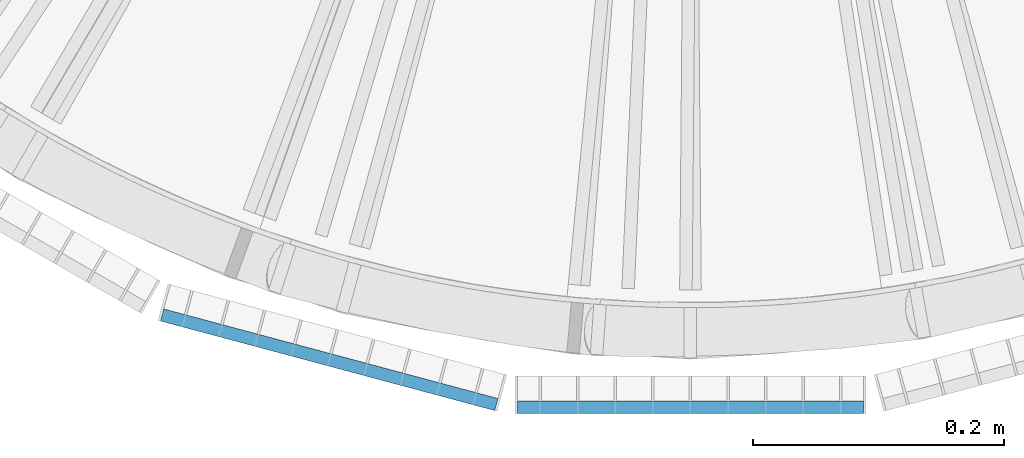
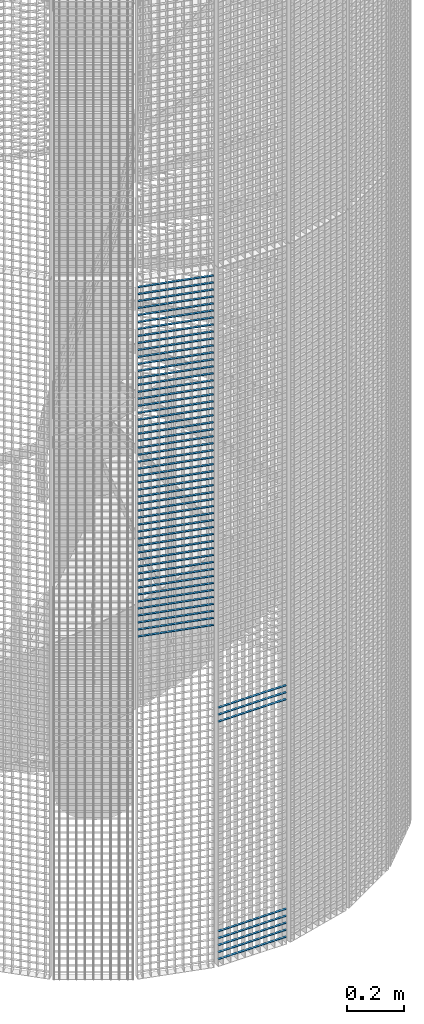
# One storey, part 171 of 1183: 59 beams, 2 elements without a shape of their own.
"""IFC2X3 building model written with IfcOpenShell, lengths in millimetres."""

import ifcopenshell
import ifcopenshell.guid

model = None  # the IFC model being written
_history = None  # IfcOwnerHistory: only IFC2X3 demands one
_inside = {}  # id of a spatial element -> (the spatial element, [elements in it])
_under = {}  # id of a project, library or spatial element -> (it, [spatial elements below it])
_declared = {}  # id of a project -> (the project, [libraries it declares])
_typed = {}  # id of a type object -> (the type object, [elements of that type])
_made_of = {}  # id of a material, layer set ... -> (it, [elements and type objects made of it])


def new_model(schema):
    """Start an empty IFC model of exactly this schema.

    Asked for "IFC4X3", IfcOpenShell would pick the latest addendum, in which some entities
    have other attributes; the version numbers below select the first issue.
    IFC2X3 requires an IfcOwnerHistory on every rooted entity: one is made here for all.
    """
    global model, _history
    if schema == "IFC4X3":
        model = ifcopenshell.file(schema_version=(4, 3, 0, 0))
    else:
        model = ifcopenshell.file(schema=schema)
    _inside.clear()
    _under.clear()
    _declared.clear()
    _typed.clear()
    _made_of.clear()
    _history = None
    if model.schema == "IFC2X3":
        org = make("IfcOrganization", Name="unknown")
        user = make(
            "IfcPersonAndOrganization",
            ThePerson=make("IfcPerson", FamilyName="unknown"),
            TheOrganization=org,
        )
        app = make(
            "IfcApplication",
            ApplicationDeveloper=org,
            Version="unknown",
            ApplicationFullName="unknown",
            ApplicationIdentifier="unknown",
        )
        _history = make(
            "IfcOwnerHistory",
            OwningUser=user,
            OwningApplication=app,
            ChangeAction="ADDED",
            CreationDate=0,
        )
    return model


def make(cls, **values):
    """One entity of the class cls with the attributes given. An attribute that is None is left unset."""
    return model.create_entity(
        cls, **{name: value for name, value in values.items() if value is not None}
    )


def rooted(cls, **values):
    """An entity with a GlobalId (a new one), such as an element, a storey or a relation."""
    return make(cls, GlobalId=ifcopenshell.guid.new(), OwnerHistory=_history, **values)


def si_unit(unit_type, name, prefix=None):
    """IfcSIUnit, for example si_unit("LENGTHUNIT", "METRE", prefix="MILLI")."""
    return make("IfcSIUnit", UnitType=unit_type, Prefix=prefix, Name=name)


def assignment(units):
    """IfcUnitAssignment: the units of a project."""
    return None if units is None else make("IfcUnitAssignment", Units=units)


def point(xyz):
    """IfcCartesianPoint."""
    return None if xyz is None else make("IfcCartesianPoint", Coordinates=xyz)


def direction(xyz):
    """IfcDirection."""
    return None if xyz is None else make("IfcDirection", DirectionRatios=xyz)


def frame(location, z_axis=None, x_axis=None):
    """IfcAxis2Placement3D, a coordinate frame: its origin and axes. An axis left out is left unset."""
    return make(
        "IfcAxis2Placement3D",
        Location=point(location),
        Axis=direction(z_axis),
        RefDirection=direction(x_axis),
    )


def frame_2d(location, x_axis=None):
    """IfcAxis2Placement2D, a coordinate frame in the plane: its origin and x axis."""
    return make(
        "IfcAxis2Placement2D", Location=point(location), RefDirection=direction(x_axis)
    )


def origin_with_axes():
    """The frame at (0, 0, 0) with the z axis (0, 0, 1) and the x axis (1, 0, 0) written out."""
    return frame((0.0, 0.0, 0.0), z_axis=(0.0, 0.0, 1.0), x_axis=(1.0, 0.0, 0.0))


def origin_2d_with_axis():
    """The frame at (0, 0) in the plane with the x axis (1, 0) written out."""
    return frame_2d((0.0, 0.0), x_axis=(1.0, 0.0))


def place(relative_to, where):
    """IfcLocalPlacement: puts the frame where relative to a parent placement (None: the world)."""
    return make(
        "IfcLocalPlacement", PlacementRelTo=relative_to, RelativePlacement=where
    )


def context(
    kind, dimensions, precision=None, world=None, true_north=None, identifier=None
):
    """IfcGeometricRepresentationContext, for example the 3D "Model" context."""
    return make(
        "IfcGeometricRepresentationContext",
        ContextIdentifier=identifier,
        ContextType=kind,
        CoordinateSpaceDimension=dimensions,
        Precision=precision,
        WorldCoordinateSystem=world,
        TrueNorth=true_north,
    )


def subcontext(parent, identifier, kind, view, scale=None):
    """IfcGeometricRepresentationSubContext, for example "Body" below "Model"."""
    return make(
        "IfcGeometricRepresentationSubContext",
        ContextIdentifier=identifier,
        ContextType=kind,
        ParentContext=parent,
        TargetScale=scale,
        TargetView=view,
    )


def project(units=None, contexts=None):
    """IfcProject with its units and contexts."""
    return rooted(
        "IfcProject",
        Name="project",
        RepresentationContexts=contexts,
        UnitsInContext=assignment(units),
    )


def spatial(cls, under=None, at=None, **own):
    """A site, building, storey or space (cls), placed at a placement, below another one or the project."""
    s = rooted(cls, ObjectPlacement=at, **own)
    if under is not None:
        _under.setdefault(under.id(), (under, []))[1].append(s)
    return s


def profile(cls, at=None, kind="AREA", **sizes):
    """A parametric profile (cls). Its sizes go by their IFC names, for example OverallWidth=200.0."""
    return make(cls, ProfileType=kind, Position=at, **sizes)


def rectangle(**sizes):
    """IfcRectangleProfileDef."""
    return profile("IfcRectangleProfileDef", **sizes)


def extrude(swept, where, along, depth):
    """IfcExtrudedAreaSolid: the profile swept, set in the frame where, extruded along a direction by depth."""
    return make(
        "IfcExtrudedAreaSolid",
        SweptArea=swept,
        Position=where,
        ExtrudedDirection=direction(along),
        Depth=depth,
    )


def shape(context_of_items, identifier, shape_type, items):
    """IfcShapeRepresentation: the items that make up one representation, for example the "Body"."""
    return make(
        "IfcShapeRepresentation",
        ContextOfItems=context_of_items,
        RepresentationIdentifier=identifier,
        RepresentationType=shape_type,
        Items=items,
    )


def material(Name=None, Category=None):
    """IfcMaterial."""
    return make("IfcMaterial", Name=Name, Category=Category)


def made_of(thing, what):
    """Note that an element or type object is made of a material, layer set ...; save() writes the relation."""
    if what is not None:
        _made_of.setdefault(what.id(), (what, []))[1].append(thing)
    return thing


def type_object(cls, material=None, **own):
    """A type object (cls), such as IfcWallType, which elements share."""
    return made_of(rooted(cls, **own), material)


def element(
    cls,
    number,
    at=None,
    inside=None,
    cuts=None,
    type_object=None,
    material=None,
    context=None,
    identifier="Body",
    shape_type=None,
    held_by="IfcProductDefinitionShape",
    body=None,
    shapes=None,
    **own,
):
    """One element of the class cls, such as IfcWall. Its Tag is "e" and its number.

    at: its placement. inside: the storey or other place that contains it. cuts: it is an
    opening in that element (IfcRelVoidsElement). A single representation is given by context,
    identifier, shape_type and body (its items); several are given by shapes. held_by: the class
    of the entity that holds the representations. save() writes the other relations.
    """
    e = rooted(cls, Tag="e%d" % number, ObjectPlacement=at, **own)
    if body is not None:
        shapes = [shape(context, identifier, shape_type, body)]
    if shapes is not None:
        e.Representation = make(held_by, Representations=shapes)
    if inside is not None:
        _inside.setdefault(inside.id(), (inside, []))[1].append(e)
    if cuts is not None:
        rooted(
            "IfcRelVoidsElement", RelatingBuildingElement=cuts, RelatedOpeningElement=e
        )
    if type_object is not None:
        _typed.setdefault(type_object.id(), (type_object, []))[1].append(e)
    return made_of(e, material)


def aggregate(whole, parts):
    """IfcRelAggregates: a whole, such as a stair, and the parts it consists of."""
    return rooted("IfcRelAggregates", RelatingObject=whole, RelatedObjects=parts)


def save(model, path):
    """Write the relations noted so far, then the file.

    IfcRelAggregates (storeys below a building ...), IfcRelContainedInSpatialStructure (elements
    in a storey), IfcRelDefinesByType, IfcRelAssociatesMaterial and IfcRelDeclares: one each for
    every whole, place, type object, material and project.
    """
    for whole, parts in _under.values():
        aggregate(whole, parts)
    for where, things in _inside.values():
        rooted(
            "IfcRelContainedInSpatialStructure",
            RelatedElements=things,
            RelatingStructure=where,
        )
    for kind, things in _typed.values():
        rooted("IfcRelDefinesByType", RelatedObjects=things, RelatingType=kind)
    for what, things in _made_of.values():
        rooted("IfcRelAssociatesMaterial", RelatedObjects=things, RelatingMaterial=what)
    for by, libraries in _declared.values():
        rooted("IfcRelDeclares", RelatingContext=by, RelatedDefinitions=libraries)
    model.write(path)


model = new_model("IFC2X3")

# Units and contexts
model_context = context("Model", 3, precision=1e-05, world=origin_with_axes())
body_context = subcontext(model_context, "Body", "Model", "MODEL_VIEW")
ifc_project = project(units=[si_unit("LENGTHUNIT", "METRE", prefix="MILLI"), si_unit("AREAUNIT", "SQUARE_METRE"), si_unit("VOLUMEUNIT", "CUBIC_METRE"), si_unit("MASSUNIT", "GRAM", prefix="KILO"), si_unit("TIMEUNIT", "SECOND"), si_unit("PLANEANGLEUNIT", "RADIAN"), si_unit("SOLIDANGLEUNIT", "STERADIAN"), si_unit("THERMODYNAMICTEMPERATUREUNIT", "DEGREE_CELSIUS"), si_unit("LUMINOUSINTENSITYUNIT", "LUMEN")], contexts=[model_context])

# Site, building, storey
site_placement = place(None, origin_with_axes())
site = spatial("IfcSite", under=ifc_project, at=site_placement, Name="Undefined", CompositionType="ELEMENT")
building_placement = place(site_placement, origin_with_axes())
building = spatial("IfcBuilding", under=site, at=building_placement, Name="Undefined", CompositionType="ELEMENT")
storey_placement = place(building_placement, origin_with_axes())
storey = spatial("IfcBuildingStorey", under=building, at=storey_placement, Name="Undefined", CompositionType="ELEMENT", Elevation=0.0)

# Assembly, beams
assembly_1_placement = place(storey_placement, origin_with_axes())
assembly_1 = element("IfcElementAssembly", 1, at=assembly_1_placement, inside=storey, Name="BORDURE", AssemblyPlace="NOTDEFINED", PredefinedType="NOTDEFINED")
ifc_material = material(Name="STEEL/S235JR")
beam_type = type_object("IfcBeamType", Name="PL2*10", PredefinedType="NOTDEFINED")
beam_1_placement = place(assembly_1_placement, frame((-137.996003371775, -1113.47999999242, 1050.0), z_axis=(0.0, -1.0, 0.0), x_axis=(1.0, 0.0, 0.0)))
beam_1 = element("IfcBeam", 2, at=beam_1_placement, type_object=beam_type, material=ifc_material, Name="ENTRETOISE", context=body_context, shape_type="SweptSolid", body=[
    extrude(rectangle(XDim=2.0, YDim=10.0, at=origin_2d_with_axis()), frame((275.999999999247, 9.09494701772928e-13, 1.53210777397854e-14), z_axis=(-1.0, 0.0, 0.0), x_axis=(0.0, -1.0, 0.0)), (0.0, 0.0, 1.0), 276.0),
])
beam_2_placement = place(assembly_1_placement, frame((-137.996003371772, -1113.47999999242, 149.999999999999), z_axis=(0.0, -1.0, 0.0), x_axis=(1.0, 0.0, 0.0)))
beam_2 = element("IfcBeam", 3, at=beam_2_placement, type_object=beam_type, material=ifc_material, Name="ENTRETOISE", context=body_context, shape_type="SweptSolid", body=[
    extrude(rectangle(XDim=2.0, YDim=10.0, at=origin_2d_with_axis()), frame((275.999999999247, 9.09494701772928e-13, 1.53210777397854e-14), z_axis=(-1.0, 0.0, 0.0), x_axis=(0.0, -1.0, 0.0)), (0.0, 0.0, 1.0), 276.0),
])
beam_3_placement = place(assembly_1_placement, frame((-137.996003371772, -1113.47999999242, 119.999999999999), z_axis=(0.0, -1.0, 0.0), x_axis=(1.0, 0.0, 0.0)))
beam_3 = element("IfcBeam", 4, at=beam_3_placement, type_object=beam_type, material=ifc_material, Name="ENTRETOISE", context=body_context, shape_type="SweptSolid", body=[
    extrude(rectangle(XDim=2.0, YDim=10.0, at=origin_2d_with_axis()), frame((275.999999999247, 9.09494701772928e-13, 1.53210777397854e-14), z_axis=(-1.0, 0.0, 0.0), x_axis=(0.0, -1.0, 0.0)), (0.0, 0.0, 1.0), 276.0),
])
beam_4_placement = place(assembly_1_placement, frame((-137.996003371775, -1113.47999999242, 1080.0), z_axis=(0.0, -1.0, 0.0), x_axis=(1.0, 0.0, 0.0)))
beam_4 = element("IfcBeam", 5, at=beam_4_placement, type_object=beam_type, material=ifc_material, Name="ENTRETOISE", context=body_context, shape_type="SweptSolid", body=[
    extrude(rectangle(XDim=2.0, YDim=10.0, at=origin_2d_with_axis()), frame((275.999999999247, 9.09494701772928e-13, 1.53210777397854e-14), z_axis=(-1.0, 0.0, 0.0), x_axis=(0.0, -1.0, 0.0)), (0.0, 0.0, 1.0), 276.0),
])
beam_5_placement = place(assembly_1_placement, frame((-137.996003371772, -1113.47999999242, 89.9999999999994), z_axis=(0.0, -1.0, 0.0), x_axis=(1.0, 0.0, 0.0)))
beam_5 = element("IfcBeam", 6, at=beam_5_placement, type_object=beam_type, material=ifc_material, Name="ENTRETOISE", context=body_context, shape_type="SweptSolid", body=[
    extrude(rectangle(XDim=2.0, YDim=10.0, at=origin_2d_with_axis()), frame((275.999999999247, 9.09494701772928e-13, 1.53210777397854e-14), z_axis=(-1.0, 0.0, 0.0), x_axis=(0.0, -1.0, 0.0)), (0.0, 0.0, 1.0), 276.0),
])
beam_6_placement = place(assembly_1_placement, frame((-137.996003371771, -1113.47999999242, 59.9999999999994), z_axis=(0.0, -1.0, 0.0), x_axis=(1.0, 0.0, 0.0)))
beam_6 = element("IfcBeam", 7, at=beam_6_placement, type_object=beam_type, material=ifc_material, Name="ENTRETOISE", context=body_context, shape_type="SweptSolid", body=[
    extrude(rectangle(XDim=2.0, YDim=10.0, at=origin_2d_with_axis()), frame((275.999999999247, 9.09494701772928e-13, 1.53210777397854e-14), z_axis=(-1.0, 0.0, 0.0), x_axis=(0.0, -1.0, 0.0)), (0.0, 0.0, 1.0), 276.0),
])
beam_7_placement = place(assembly_1_placement, frame((-137.996003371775, -1113.47999999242, 1110.0), z_axis=(0.0, -1.0, 0.0), x_axis=(1.0, 0.0, 0.0)))
beam_7 = element("IfcBeam", 8, at=beam_7_placement, type_object=beam_type, material=ifc_material, Name="ENTRETOISE", context=body_context, shape_type="SweptSolid", body=[
    extrude(rectangle(XDim=2.0, YDim=10.0, at=origin_2d_with_axis()), frame((275.999999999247, 9.09494701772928e-13, 1.53210777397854e-14), z_axis=(-1.0, 0.0, 0.0), x_axis=(0.0, -1.0, 0.0)), (0.0, 0.0, 1.0), 276.0),
])
beam_8_placement = place(assembly_1_placement, frame((-137.99600337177, -1113.47999999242, 29.9999999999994), z_axis=(0.0, -1.0, 0.0), x_axis=(1.0, 0.0, 0.0)))
beam_8 = element("IfcBeam", 9, at=beam_8_placement, type_object=beam_type, material=ifc_material, Name="ENTRETOISE", context=body_context, shape_type="SweptSolid", body=[
    extrude(rectangle(XDim=2.0, YDim=10.0, at=origin_2d_with_axis()), frame((275.999999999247, 9.09494701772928e-13, 1.53210777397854e-14), z_axis=(-1.0, 0.0, 0.0), x_axis=(0.0, -1.0, 0.0)), (0.0, 0.0, 1.0), 276.0),
])
aggregate(assembly_1, [beam_1, beam_2, beam_3, beam_4, beam_5, beam_6, beam_7, beam_8])

assembly_2_placement = place(storey_placement, origin_with_axes())
assembly_2 = element("IfcElementAssembly", 10, at=assembly_2_placement, inside=storey, Name="BORDURE", AssemblyPlace="NOTDEFINED", PredefinedType="NOTDEFINED")
beam_9_placement = place(assembly_2_placement, frame((-421.483733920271, -1039.82309522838, 2970.0), z_axis=(-0.258819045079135, -0.965925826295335, 0.0), x_axis=(0.965925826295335, -0.258819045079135, 0.0)))
beam_9 = element("IfcBeam", 11, at=beam_9_placement, type_object=beam_type, material=ifc_material, Name="ENTRETOISE", context=body_context, shape_type="SweptSolid", body=[
    extrude(rectangle(XDim=2.0, YDim=10.0, at=origin_2d_with_axis()), frame((275.999999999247, 9.09494701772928e-13, 1.53210777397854e-14), z_axis=(-1.0, 0.0, 0.0), x_axis=(0.0, -1.0, 0.0)), (0.0, 0.0, 1.0), 276.0),
])
beam_10_placement = place(assembly_2_placement, frame((-421.483733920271, -1039.82309522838, 2940.0), z_axis=(-0.258819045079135, -0.965925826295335, 0.0), x_axis=(0.965925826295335, -0.258819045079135, 0.0)))
beam_10 = element("IfcBeam", 12, at=beam_10_placement, type_object=beam_type, material=ifc_material, Name="ENTRETOISE", context=body_context, shape_type="SweptSolid", body=[
    extrude(rectangle(XDim=2.0, YDim=10.0, at=origin_2d_with_axis()), frame((275.999999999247, 9.09494701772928e-13, 1.53210777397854e-14), z_axis=(-1.0, 0.0, 0.0), x_axis=(0.0, -1.0, 0.0)), (0.0, 0.0, 1.0), 276.0),
])
beam_11_placement = place(assembly_2_placement, frame((-421.483733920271, -1039.82309522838, 2910.0), z_axis=(-0.258819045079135, -0.965925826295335, 0.0), x_axis=(0.965925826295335, -0.258819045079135, 0.0)))
beam_11 = element("IfcBeam", 13, at=beam_11_placement, type_object=beam_type, material=ifc_material, Name="ENTRETOISE", context=body_context, shape_type="SweptSolid", body=[
    extrude(rectangle(XDim=2.0, YDim=10.0, at=origin_2d_with_axis()), frame((275.999999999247, 9.09494701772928e-13, 1.53210777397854e-14), z_axis=(-1.0, 0.0, 0.0), x_axis=(0.0, -1.0, 0.0)), (0.0, 0.0, 1.0), 276.0),
])
beam_12_placement = place(assembly_2_placement, frame((-421.483733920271, -1039.82309522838, 2880.0), z_axis=(-0.258819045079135, -0.965925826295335, 0.0), x_axis=(0.965925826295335, -0.258819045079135, 0.0)))
beam_12 = element("IfcBeam", 14, at=beam_12_placement, type_object=beam_type, material=ifc_material, Name="ENTRETOISE", context=body_context, shape_type="SweptSolid", body=[
    extrude(rectangle(XDim=2.0, YDim=10.0, at=origin_2d_with_axis()), frame((275.999999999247, 9.09494701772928e-13, 1.53210777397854e-14), z_axis=(-1.0, 0.0, 0.0), x_axis=(0.0, -1.0, 0.0)), (0.0, 0.0, 1.0), 276.0),
])
beam_13_placement = place(assembly_2_placement, frame((-421.483733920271, -1039.82309522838, 2850.0), z_axis=(-0.258819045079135, -0.965925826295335, 0.0), x_axis=(0.965925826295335, -0.258819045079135, 0.0)))
beam_13 = element("IfcBeam", 15, at=beam_13_placement, type_object=beam_type, material=ifc_material, Name="ENTRETOISE", context=body_context, shape_type="SweptSolid", body=[
    extrude(rectangle(XDim=2.0, YDim=10.0, at=origin_2d_with_axis()), frame((275.999999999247, 9.09494701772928e-13, 1.53210777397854e-14), z_axis=(-1.0, 0.0, 0.0), x_axis=(0.0, -1.0, 0.0)), (0.0, 0.0, 1.0), 276.0),
])
beam_14_placement = place(assembly_2_placement, frame((-421.483733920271, -1039.82309522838, 2820.0), z_axis=(-0.258819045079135, -0.965925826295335, 0.0), x_axis=(0.965925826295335, -0.258819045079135, 0.0)))
beam_14 = element("IfcBeam", 16, at=beam_14_placement, type_object=beam_type, material=ifc_material, Name="ENTRETOISE", context=body_context, shape_type="SweptSolid", body=[
    extrude(rectangle(XDim=2.0, YDim=10.0, at=origin_2d_with_axis()), frame((275.999999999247, 9.09494701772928e-13, 1.53210777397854e-14), z_axis=(-1.0, 0.0, 0.0), x_axis=(0.0, -1.0, 0.0)), (0.0, 0.0, 1.0), 276.0),
])
beam_15_placement = place(assembly_2_placement, frame((-421.483733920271, -1039.82309522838, 2790.0), z_axis=(-0.258819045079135, -0.965925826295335, 0.0), x_axis=(0.965925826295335, -0.258819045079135, 0.0)))
beam_15 = element("IfcBeam", 17, at=beam_15_placement, type_object=beam_type, material=ifc_material, Name="ENTRETOISE", context=body_context, shape_type="SweptSolid", body=[
    extrude(rectangle(XDim=2.0, YDim=10.0, at=origin_2d_with_axis()), frame((275.999999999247, 9.09494701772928e-13, 1.53210777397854e-14), z_axis=(-1.0, 0.0, 0.0), x_axis=(0.0, -1.0, 0.0)), (0.0, 0.0, 1.0), 276.0),
])
beam_16_placement = place(assembly_2_placement, frame((-421.483733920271, -1039.82309522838, 2760.0), z_axis=(-0.258819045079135, -0.965925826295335, 0.0), x_axis=(0.965925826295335, -0.258819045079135, 0.0)))
beam_16 = element("IfcBeam", 18, at=beam_16_placement, type_object=beam_type, material=ifc_material, Name="ENTRETOISE", context=body_context, shape_type="SweptSolid", body=[
    extrude(rectangle(XDim=2.0, YDim=10.0, at=origin_2d_with_axis()), frame((275.999999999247, 9.09494701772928e-13, 1.53210777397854e-14), z_axis=(-1.0, 0.0, 0.0), x_axis=(0.0, -1.0, 0.0)), (0.0, 0.0, 1.0), 276.0),
])
beam_17_placement = place(assembly_2_placement, frame((-421.483733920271, -1039.82309522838, 2730.0), z_axis=(-0.258819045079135, -0.965925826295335, 0.0), x_axis=(0.965925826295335, -0.258819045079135, 0.0)))
beam_17 = element("IfcBeam", 19, at=beam_17_placement, type_object=beam_type, material=ifc_material, Name="ENTRETOISE", context=body_context, shape_type="SweptSolid", body=[
    extrude(rectangle(XDim=2.0, YDim=10.0, at=origin_2d_with_axis()), frame((275.999999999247, 9.09494701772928e-13, 1.53210777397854e-14), z_axis=(-1.0, 0.0, 0.0), x_axis=(0.0, -1.0, 0.0)), (0.0, 0.0, 1.0), 276.0),
])
beam_18_placement = place(assembly_2_placement, frame((-421.48373392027, -1039.82309522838, 2700.0), z_axis=(-0.258819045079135, -0.965925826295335, 0.0), x_axis=(0.965925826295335, -0.258819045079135, 0.0)))
beam_18 = element("IfcBeam", 20, at=beam_18_placement, type_object=beam_type, material=ifc_material, Name="ENTRETOISE", context=body_context, shape_type="SweptSolid", body=[
    extrude(rectangle(XDim=2.0, YDim=10.0, at=origin_2d_with_axis()), frame((275.999999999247, 9.09494701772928e-13, 1.53210777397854e-14), z_axis=(-1.0, 0.0, 0.0), x_axis=(0.0, -1.0, 0.0)), (0.0, 0.0, 1.0), 276.0),
])
beam_19_placement = place(assembly_2_placement, frame((-421.48373392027, -1039.82309522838, 2670.0), z_axis=(-0.258819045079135, -0.965925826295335, 0.0), x_axis=(0.965925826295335, -0.258819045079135, 0.0)))
beam_19 = element("IfcBeam", 21, at=beam_19_placement, type_object=beam_type, material=ifc_material, Name="ENTRETOISE", context=body_context, shape_type="SweptSolid", body=[
    extrude(rectangle(XDim=2.0, YDim=10.0, at=origin_2d_with_axis()), frame((275.999999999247, 9.09494701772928e-13, 1.53210777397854e-14), z_axis=(-1.0, 0.0, 0.0), x_axis=(0.0, -1.0, 0.0)), (0.0, 0.0, 1.0), 276.0),
])
beam_20_placement = place(assembly_2_placement, frame((-421.48373392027, -1039.82309522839, 2640.0), z_axis=(-0.258819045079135, -0.965925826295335, 0.0), x_axis=(0.965925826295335, -0.258819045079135, 0.0)))
beam_20 = element("IfcBeam", 22, at=beam_20_placement, type_object=beam_type, material=ifc_material, Name="ENTRETOISE", context=body_context, shape_type="SweptSolid", body=[
    extrude(rectangle(XDim=2.0, YDim=10.0, at=origin_2d_with_axis()), frame((275.999999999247, 9.09494701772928e-13, 1.53210777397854e-14), z_axis=(-1.0, 0.0, 0.0), x_axis=(0.0, -1.0, 0.0)), (0.0, 0.0, 1.0), 276.0),
])
beam_21_placement = place(assembly_2_placement, frame((-421.48373392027, -1039.82309522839, 2610.0), z_axis=(-0.258819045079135, -0.965925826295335, 0.0), x_axis=(0.965925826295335, -0.258819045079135, 0.0)))
beam_21 = element("IfcBeam", 23, at=beam_21_placement, type_object=beam_type, material=ifc_material, Name="ENTRETOISE", context=body_context, shape_type="SweptSolid", body=[
    extrude(rectangle(XDim=2.0, YDim=10.0, at=origin_2d_with_axis()), frame((275.999999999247, 9.09494701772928e-13, 1.53210777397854e-14), z_axis=(-1.0, 0.0, 0.0), x_axis=(0.0, -1.0, 0.0)), (0.0, 0.0, 1.0), 276.0),
])
beam_22_placement = place(assembly_2_placement, frame((-421.48373392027, -1039.82309522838, 2580.0), z_axis=(-0.258819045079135, -0.965925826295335, 0.0), x_axis=(0.965925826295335, -0.258819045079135, 0.0)))
beam_22 = element("IfcBeam", 24, at=beam_22_placement, type_object=beam_type, material=ifc_material, Name="ENTRETOISE", context=body_context, shape_type="SweptSolid", body=[
    extrude(rectangle(XDim=2.0, YDim=10.0, at=origin_2d_with_axis()), frame((275.999999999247, 9.09494701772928e-13, 1.53210777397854e-14), z_axis=(-1.0, 0.0, 0.0), x_axis=(0.0, -1.0, 0.0)), (0.0, 0.0, 1.0), 276.0),
])
beam_23_placement = place(assembly_2_placement, frame((-421.48373392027, -1039.82309522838, 2550.0), z_axis=(-0.258819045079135, -0.965925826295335, 0.0), x_axis=(0.965925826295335, -0.258819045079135, 0.0)))
beam_23 = element("IfcBeam", 25, at=beam_23_placement, type_object=beam_type, material=ifc_material, Name="ENTRETOISE", context=body_context, shape_type="SweptSolid", body=[
    extrude(rectangle(XDim=2.0, YDim=10.0, at=origin_2d_with_axis()), frame((275.999999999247, 9.09494701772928e-13, 1.53210777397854e-14), z_axis=(-1.0, 0.0, 0.0), x_axis=(0.0, -1.0, 0.0)), (0.0, 0.0, 1.0), 276.0),
])
beam_24_placement = place(assembly_2_placement, frame((-421.48373392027, -1039.82309522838, 2520.0), z_axis=(-0.258819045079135, -0.965925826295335, 0.0), x_axis=(0.965925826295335, -0.258819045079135, 0.0)))
beam_24 = element("IfcBeam", 26, at=beam_24_placement, type_object=beam_type, material=ifc_material, Name="ENTRETOISE", context=body_context, shape_type="SweptSolid", body=[
    extrude(rectangle(XDim=2.0, YDim=10.0, at=origin_2d_with_axis()), frame((275.999999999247, 9.09494701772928e-13, 1.53210777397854e-14), z_axis=(-1.0, 0.0, 0.0), x_axis=(0.0, -1.0, 0.0)), (0.0, 0.0, 1.0), 276.0),
])
beam_25_placement = place(assembly_2_placement, frame((-421.48373392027, -1039.82309522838, 2490.0), z_axis=(-0.258819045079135, -0.965925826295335, 0.0), x_axis=(0.965925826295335, -0.258819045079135, 0.0)))
beam_25 = element("IfcBeam", 27, at=beam_25_placement, type_object=beam_type, material=ifc_material, Name="ENTRETOISE", context=body_context, shape_type="SweptSolid", body=[
    extrude(rectangle(XDim=2.0, YDim=10.0, at=origin_2d_with_axis()), frame((275.999999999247, 9.09494701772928e-13, 1.53210777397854e-14), z_axis=(-1.0, 0.0, 0.0), x_axis=(0.0, -1.0, 0.0)), (0.0, 0.0, 1.0), 276.0),
])
beam_26_placement = place(assembly_2_placement, frame((-421.48373392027, -1039.82309522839, 2460.0), z_axis=(-0.258819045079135, -0.965925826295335, 0.0), x_axis=(0.965925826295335, -0.258819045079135, 0.0)))
beam_26 = element("IfcBeam", 28, at=beam_26_placement, type_object=beam_type, material=ifc_material, Name="ENTRETOISE", context=body_context, shape_type="SweptSolid", body=[
    extrude(rectangle(XDim=2.0, YDim=10.0, at=origin_2d_with_axis()), frame((275.999999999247, 9.09494701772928e-13, 1.53210777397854e-14), z_axis=(-1.0, 0.0, 0.0), x_axis=(0.0, -1.0, 0.0)), (0.0, 0.0, 1.0), 276.0),
])
beam_27_placement = place(assembly_2_placement, frame((-421.48373392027, -1039.82309522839, 2430.0), z_axis=(-0.258819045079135, -0.965925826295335, 0.0), x_axis=(0.965925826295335, -0.258819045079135, 0.0)))
beam_27 = element("IfcBeam", 29, at=beam_27_placement, type_object=beam_type, material=ifc_material, Name="ENTRETOISE", context=body_context, shape_type="SweptSolid", body=[
    extrude(rectangle(XDim=2.0, YDim=10.0, at=origin_2d_with_axis()), frame((275.999999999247, 9.09494701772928e-13, 1.53210777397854e-14), z_axis=(-1.0, 0.0, 0.0), x_axis=(0.0, -1.0, 0.0)), (0.0, 0.0, 1.0), 276.0),
])
beam_28_placement = place(assembly_2_placement, frame((-421.483733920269, -1039.82309522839, 2400.0), z_axis=(-0.258819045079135, -0.965925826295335, 0.0), x_axis=(0.965925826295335, -0.258819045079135, 0.0)))
beam_28 = element("IfcBeam", 30, at=beam_28_placement, type_object=beam_type, material=ifc_material, Name="ENTRETOISE", context=body_context, shape_type="SweptSolid", body=[
    extrude(rectangle(XDim=2.0, YDim=10.0, at=origin_2d_with_axis()), frame((275.999999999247, 9.09494701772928e-13, 1.53210777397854e-14), z_axis=(-1.0, 0.0, 0.0), x_axis=(0.0, -1.0, 0.0)), (0.0, 0.0, 1.0), 276.0),
])
beam_29_placement = place(assembly_2_placement, frame((-421.483733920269, -1039.82309522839, 2370.0), z_axis=(-0.258819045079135, -0.965925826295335, 0.0), x_axis=(0.965925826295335, -0.258819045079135, 0.0)))
beam_29 = element("IfcBeam", 31, at=beam_29_placement, type_object=beam_type, material=ifc_material, Name="ENTRETOISE", context=body_context, shape_type="SweptSolid", body=[
    extrude(rectangle(XDim=2.0, YDim=10.0, at=origin_2d_with_axis()), frame((275.999999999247, 9.09494701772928e-13, 1.53210777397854e-14), z_axis=(-1.0, 0.0, 0.0), x_axis=(0.0, -1.0, 0.0)), (0.0, 0.0, 1.0), 276.0),
])
beam_30_placement = place(assembly_2_placement, frame((-421.483733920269, -1039.82309522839, 2340.0), z_axis=(-0.258819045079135, -0.965925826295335, 0.0), x_axis=(0.965925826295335, -0.258819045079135, 0.0)))
beam_30 = element("IfcBeam", 32, at=beam_30_placement, type_object=beam_type, material=ifc_material, Name="ENTRETOISE", context=body_context, shape_type="SweptSolid", body=[
    extrude(rectangle(XDim=2.0, YDim=10.0, at=origin_2d_with_axis()), frame((275.999999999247, 9.09494701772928e-13, 1.53210777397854e-14), z_axis=(-1.0, 0.0, 0.0), x_axis=(0.0, -1.0, 0.0)), (0.0, 0.0, 1.0), 276.0),
])
beam_31_placement = place(assembly_2_placement, frame((-421.483733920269, -1039.82309522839, 2310.0), z_axis=(-0.258819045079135, -0.965925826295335, 0.0), x_axis=(0.965925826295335, -0.258819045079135, 0.0)))
beam_31 = element("IfcBeam", 33, at=beam_31_placement, type_object=beam_type, material=ifc_material, Name="ENTRETOISE", context=body_context, shape_type="SweptSolid", body=[
    extrude(rectangle(XDim=2.0, YDim=10.0, at=origin_2d_with_axis()), frame((275.999999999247, 9.09494701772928e-13, 1.53210777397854e-14), z_axis=(-1.0, 0.0, 0.0), x_axis=(0.0, -1.0, 0.0)), (0.0, 0.0, 1.0), 276.0),
])
beam_32_placement = place(assembly_2_placement, frame((-421.483733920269, -1039.82309522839, 2280.0), z_axis=(-0.258819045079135, -0.965925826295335, 0.0), x_axis=(0.965925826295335, -0.258819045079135, 0.0)))
beam_32 = element("IfcBeam", 34, at=beam_32_placement, type_object=beam_type, material=ifc_material, Name="ENTRETOISE", context=body_context, shape_type="SweptSolid", body=[
    extrude(rectangle(XDim=2.0, YDim=10.0, at=origin_2d_with_axis()), frame((275.999999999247, 9.09494701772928e-13, 1.53210777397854e-14), z_axis=(-1.0, 0.0, 0.0), x_axis=(0.0, -1.0, 0.0)), (0.0, 0.0, 1.0), 276.0),
])
beam_33_placement = place(assembly_2_placement, frame((-421.483733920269, -1039.82309522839, 2250.0), z_axis=(-0.258819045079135, -0.965925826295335, 0.0), x_axis=(0.965925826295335, -0.258819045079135, 0.0)))
beam_33 = element("IfcBeam", 35, at=beam_33_placement, type_object=beam_type, material=ifc_material, Name="ENTRETOISE", context=body_context, shape_type="SweptSolid", body=[
    extrude(rectangle(XDim=2.0, YDim=10.0, at=origin_2d_with_axis()), frame((275.999999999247, 9.09494701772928e-13, 1.53210777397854e-14), z_axis=(-1.0, 0.0, 0.0), x_axis=(0.0, -1.0, 0.0)), (0.0, 0.0, 1.0), 276.0),
])
beam_34_placement = place(assembly_2_placement, frame((-421.483733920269, -1039.82309522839, 2220.0), z_axis=(-0.258819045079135, -0.965925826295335, 0.0), x_axis=(0.965925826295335, -0.258819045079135, 0.0)))
beam_34 = element("IfcBeam", 36, at=beam_34_placement, type_object=beam_type, material=ifc_material, Name="ENTRETOISE", context=body_context, shape_type="SweptSolid", body=[
    extrude(rectangle(XDim=2.0, YDim=10.0, at=origin_2d_with_axis()), frame((275.999999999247, 9.09494701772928e-13, 1.53210777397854e-14), z_axis=(-1.0, 0.0, 0.0), x_axis=(0.0, -1.0, 0.0)), (0.0, 0.0, 1.0), 276.0),
])
beam_35_placement = place(assembly_2_placement, frame((-421.483733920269, -1039.82309522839, 2190.0), z_axis=(-0.258819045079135, -0.965925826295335, 0.0), x_axis=(0.965925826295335, -0.258819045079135, 0.0)))
beam_35 = element("IfcBeam", 37, at=beam_35_placement, type_object=beam_type, material=ifc_material, Name="ENTRETOISE", context=body_context, shape_type="SweptSolid", body=[
    extrude(rectangle(XDim=2.0, YDim=10.0, at=origin_2d_with_axis()), frame((275.999999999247, 9.09494701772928e-13, 1.53210777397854e-14), z_axis=(-1.0, 0.0, 0.0), x_axis=(0.0, -1.0, 0.0)), (0.0, 0.0, 1.0), 276.0),
])
beam_36_placement = place(assembly_2_placement, frame((-421.483733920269, -1039.82309522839, 2160.0), z_axis=(-0.258819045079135, -0.965925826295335, 0.0), x_axis=(0.965925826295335, -0.258819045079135, 0.0)))
beam_36 = element("IfcBeam", 38, at=beam_36_placement, type_object=beam_type, material=ifc_material, Name="ENTRETOISE", context=body_context, shape_type="SweptSolid", body=[
    extrude(rectangle(XDim=2.0, YDim=10.0, at=origin_2d_with_axis()), frame((275.999999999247, 9.09494701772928e-13, 1.53210777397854e-14), z_axis=(-1.0, 0.0, 0.0), x_axis=(0.0, -1.0, 0.0)), (0.0, 0.0, 1.0), 276.0),
])
beam_37_placement = place(assembly_2_placement, frame((-421.483733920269, -1039.82309522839, 2130.0), z_axis=(-0.258819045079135, -0.965925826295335, 0.0), x_axis=(0.965925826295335, -0.258819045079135, 0.0)))
beam_37 = element("IfcBeam", 39, at=beam_37_placement, type_object=beam_type, material=ifc_material, Name="ENTRETOISE", context=body_context, shape_type="SweptSolid", body=[
    extrude(rectangle(XDim=2.0, YDim=10.0, at=origin_2d_with_axis()), frame((275.999999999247, 9.09494701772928e-13, 1.53210777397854e-14), z_axis=(-1.0, 0.0, 0.0), x_axis=(0.0, -1.0, 0.0)), (0.0, 0.0, 1.0), 276.0),
])
beam_38_placement = place(assembly_2_placement, frame((-421.483733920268, -1039.82309522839, 2100.0), z_axis=(-0.258819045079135, -0.965925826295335, 0.0), x_axis=(0.965925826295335, -0.258819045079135, 0.0)))
beam_38 = element("IfcBeam", 40, at=beam_38_placement, type_object=beam_type, material=ifc_material, Name="ENTRETOISE", context=body_context, shape_type="SweptSolid", body=[
    extrude(rectangle(XDim=2.0, YDim=10.0, at=origin_2d_with_axis()), frame((275.999999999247, 9.09494701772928e-13, 1.53210777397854e-14), z_axis=(-1.0, 0.0, 0.0), x_axis=(0.0, -1.0, 0.0)), (0.0, 0.0, 1.0), 276.0),
])
beam_39_placement = place(assembly_2_placement, frame((-421.483733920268, -1039.82309522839, 2070.0), z_axis=(-0.258819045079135, -0.965925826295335, 0.0), x_axis=(0.965925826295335, -0.258819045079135, 0.0)))
beam_39 = element("IfcBeam", 41, at=beam_39_placement, type_object=beam_type, material=ifc_material, Name="ENTRETOISE", context=body_context, shape_type="SweptSolid", body=[
    extrude(rectangle(XDim=2.0, YDim=10.0, at=origin_2d_with_axis()), frame((275.999999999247, 9.09494701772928e-13, 1.53210777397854e-14), z_axis=(-1.0, 0.0, 0.0), x_axis=(0.0, -1.0, 0.0)), (0.0, 0.0, 1.0), 276.0),
])
beam_40_placement = place(assembly_2_placement, frame((-421.483733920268, -1039.82309522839, 2040.0), z_axis=(-0.258819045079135, -0.965925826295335, 0.0), x_axis=(0.965925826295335, -0.258819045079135, 0.0)))
beam_40 = element("IfcBeam", 42, at=beam_40_placement, type_object=beam_type, material=ifc_material, Name="ENTRETOISE", context=body_context, shape_type="SweptSolid", body=[
    extrude(rectangle(XDim=2.0, YDim=10.0, at=origin_2d_with_axis()), frame((275.999999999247, 9.09494701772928e-13, 1.53210777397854e-14), z_axis=(-1.0, 0.0, 0.0), x_axis=(0.0, -1.0, 0.0)), (0.0, 0.0, 1.0), 276.0),
])
beam_41_placement = place(assembly_2_placement, frame((-421.483733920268, -1039.82309522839, 2010.0), z_axis=(-0.258819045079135, -0.965925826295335, 0.0), x_axis=(0.965925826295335, -0.258819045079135, 0.0)))
beam_41 = element("IfcBeam", 43, at=beam_41_placement, type_object=beam_type, material=ifc_material, Name="ENTRETOISE", context=body_context, shape_type="SweptSolid", body=[
    extrude(rectangle(XDim=2.0, YDim=10.0, at=origin_2d_with_axis()), frame((275.999999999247, 9.09494701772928e-13, 1.53210777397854e-14), z_axis=(-1.0, 0.0, 0.0), x_axis=(0.0, -1.0, 0.0)), (0.0, 0.0, 1.0), 276.0),
])
beam_42_placement = place(assembly_2_placement, frame((-421.483733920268, -1039.82309522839, 1980.0), z_axis=(-0.258819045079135, -0.965925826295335, 0.0), x_axis=(0.965925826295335, -0.258819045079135, 0.0)))
beam_42 = element("IfcBeam", 44, at=beam_42_placement, type_object=beam_type, material=ifc_material, Name="ENTRETOISE", context=body_context, shape_type="SweptSolid", body=[
    extrude(rectangle(XDim=2.0, YDim=10.0, at=origin_2d_with_axis()), frame((275.999999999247, 9.09494701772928e-13, 1.53210777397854e-14), z_axis=(-1.0, 0.0, 0.0), x_axis=(0.0, -1.0, 0.0)), (0.0, 0.0, 1.0), 276.0),
])
beam_43_placement = place(assembly_2_placement, frame((-421.483733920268, -1039.82309522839, 1950.0), z_axis=(-0.258819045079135, -0.965925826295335, 0.0), x_axis=(0.965925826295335, -0.258819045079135, 0.0)))
beam_43 = element("IfcBeam", 45, at=beam_43_placement, type_object=beam_type, material=ifc_material, Name="ENTRETOISE", context=body_context, shape_type="SweptSolid", body=[
    extrude(rectangle(XDim=2.0, YDim=10.0, at=origin_2d_with_axis()), frame((275.999999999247, 9.09494701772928e-13, 1.53210777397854e-14), z_axis=(-1.0, 0.0, 0.0), x_axis=(0.0, -1.0, 0.0)), (0.0, 0.0, 1.0), 276.0),
])
beam_44_placement = place(assembly_2_placement, frame((-421.483733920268, -1039.82309522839, 1920.0), z_axis=(-0.258819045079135, -0.965925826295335, 0.0), x_axis=(0.965925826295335, -0.258819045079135, 0.0)))
beam_44 = element("IfcBeam", 46, at=beam_44_placement, type_object=beam_type, material=ifc_material, Name="ENTRETOISE", context=body_context, shape_type="SweptSolid", body=[
    extrude(rectangle(XDim=2.0, YDim=10.0, at=origin_2d_with_axis()), frame((275.999999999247, 9.09494701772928e-13, 1.53210777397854e-14), z_axis=(-1.0, 0.0, 0.0), x_axis=(0.0, -1.0, 0.0)), (0.0, 0.0, 1.0), 276.0),
])
beam_45_placement = place(assembly_2_placement, frame((-421.483733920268, -1039.82309522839, 1890.0), z_axis=(-0.258819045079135, -0.965925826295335, 0.0), x_axis=(0.965925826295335, -0.258819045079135, 0.0)))
beam_45 = element("IfcBeam", 47, at=beam_45_placement, type_object=beam_type, material=ifc_material, Name="ENTRETOISE", context=body_context, shape_type="SweptSolid", body=[
    extrude(rectangle(XDim=2.0, YDim=10.0, at=origin_2d_with_axis()), frame((275.999999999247, 9.09494701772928e-13, 1.53210777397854e-14), z_axis=(-1.0, 0.0, 0.0), x_axis=(0.0, -1.0, 0.0)), (0.0, 0.0, 1.0), 276.0),
])
beam_46_placement = place(assembly_2_placement, frame((-421.483733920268, -1039.82309522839, 1860.0), z_axis=(-0.258819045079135, -0.965925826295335, 0.0), x_axis=(0.965925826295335, -0.258819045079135, 0.0)))
beam_46 = element("IfcBeam", 48, at=beam_46_placement, type_object=beam_type, material=ifc_material, Name="ENTRETOISE", context=body_context, shape_type="SweptSolid", body=[
    extrude(rectangle(XDim=2.0, YDim=10.0, at=origin_2d_with_axis()), frame((275.999999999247, 9.09494701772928e-13, 1.53210777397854e-14), z_axis=(-1.0, 0.0, 0.0), x_axis=(0.0, -1.0, 0.0)), (0.0, 0.0, 1.0), 276.0),
])
beam_47_placement = place(assembly_2_placement, frame((-421.483733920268, -1039.82309522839, 1830.0), z_axis=(-0.258819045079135, -0.965925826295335, 0.0), x_axis=(0.965925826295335, -0.258819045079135, 0.0)))
beam_47 = element("IfcBeam", 49, at=beam_47_placement, type_object=beam_type, material=ifc_material, Name="ENTRETOISE", context=body_context, shape_type="SweptSolid", body=[
    extrude(rectangle(XDim=2.0, YDim=10.0, at=origin_2d_with_axis()), frame((275.999999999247, 9.09494701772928e-13, 1.53210777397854e-14), z_axis=(-1.0, 0.0, 0.0), x_axis=(0.0, -1.0, 0.0)), (0.0, 0.0, 1.0), 276.0),
])
beam_48_placement = place(assembly_2_placement, frame((-421.483733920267, -1039.82309522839, 1800.0), z_axis=(-0.258819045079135, -0.965925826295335, 0.0), x_axis=(0.965925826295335, -0.258819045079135, 0.0)))
beam_48 = element("IfcBeam", 50, at=beam_48_placement, type_object=beam_type, material=ifc_material, Name="ENTRETOISE", context=body_context, shape_type="SweptSolid", body=[
    extrude(rectangle(XDim=2.0, YDim=10.0, at=origin_2d_with_axis()), frame((275.999999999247, 9.09494701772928e-13, 1.53210777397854e-14), z_axis=(-1.0, 0.0, 0.0), x_axis=(0.0, -1.0, 0.0)), (0.0, 0.0, 1.0), 276.0),
])
beam_49_placement = place(assembly_2_placement, frame((-421.483733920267, -1039.82309522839, 1770.0), z_axis=(-0.258819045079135, -0.965925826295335, 0.0), x_axis=(0.965925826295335, -0.258819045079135, 0.0)))
beam_49 = element("IfcBeam", 51, at=beam_49_placement, type_object=beam_type, material=ifc_material, Name="ENTRETOISE", context=body_context, shape_type="SweptSolid", body=[
    extrude(rectangle(XDim=2.0, YDim=10.0, at=origin_2d_with_axis()), frame((275.999999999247, 9.09494701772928e-13, 1.53210777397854e-14), z_axis=(-1.0, 0.0, 0.0), x_axis=(0.0, -1.0, 0.0)), (0.0, 0.0, 1.0), 276.0),
])
beam_50_placement = place(assembly_2_placement, frame((-421.483733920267, -1039.82309522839, 1740.0), z_axis=(-0.258819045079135, -0.965925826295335, 0.0), x_axis=(0.965925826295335, -0.258819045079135, 0.0)))
beam_50 = element("IfcBeam", 52, at=beam_50_placement, type_object=beam_type, material=ifc_material, Name="ENTRETOISE", context=body_context, shape_type="SweptSolid", body=[
    extrude(rectangle(XDim=2.0, YDim=10.0, at=origin_2d_with_axis()), frame((275.999999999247, 9.09494701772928e-13, 1.53210777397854e-14), z_axis=(-1.0, 0.0, 0.0), x_axis=(0.0, -1.0, 0.0)), (0.0, 0.0, 1.0), 276.0),
])
beam_51_placement = place(assembly_2_placement, frame((-421.483733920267, -1039.82309522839, 1710.0), z_axis=(-0.258819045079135, -0.965925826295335, 0.0), x_axis=(0.965925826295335, -0.258819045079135, 0.0)))
beam_51 = element("IfcBeam", 53, at=beam_51_placement, type_object=beam_type, material=ifc_material, Name="ENTRETOISE", context=body_context, shape_type="SweptSolid", body=[
    extrude(rectangle(XDim=2.0, YDim=10.0, at=origin_2d_with_axis()), frame((275.999999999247, 9.09494701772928e-13, 1.53210777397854e-14), z_axis=(-1.0, 0.0, 0.0), x_axis=(0.0, -1.0, 0.0)), (0.0, 0.0, 1.0), 276.0),
])
beam_52_placement = place(assembly_2_placement, frame((-421.483733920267, -1039.82309522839, 1680.0), z_axis=(-0.258819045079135, -0.965925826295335, 0.0), x_axis=(0.965925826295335, -0.258819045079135, 0.0)))
beam_52 = element("IfcBeam", 54, at=beam_52_placement, type_object=beam_type, material=ifc_material, Name="ENTRETOISE", context=body_context, shape_type="SweptSolid", body=[
    extrude(rectangle(XDim=2.0, YDim=10.0, at=origin_2d_with_axis()), frame((275.999999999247, 9.09494701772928e-13, 1.53210777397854e-14), z_axis=(-1.0, 0.0, 0.0), x_axis=(0.0, -1.0, 0.0)), (0.0, 0.0, 1.0), 276.0),
])
beam_53_placement = place(assembly_2_placement, frame((-421.483733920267, -1039.82309522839, 1650.0), z_axis=(-0.258819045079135, -0.965925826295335, 0.0), x_axis=(0.965925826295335, -0.258819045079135, 0.0)))
beam_53 = element("IfcBeam", 55, at=beam_53_placement, type_object=beam_type, material=ifc_material, Name="ENTRETOISE", context=body_context, shape_type="SweptSolid", body=[
    extrude(rectangle(XDim=2.0, YDim=10.0, at=origin_2d_with_axis()), frame((275.999999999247, 9.09494701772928e-13, 1.53210777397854e-14), z_axis=(-1.0, 0.0, 0.0), x_axis=(0.0, -1.0, 0.0)), (0.0, 0.0, 1.0), 276.0),
])
beam_54_placement = place(assembly_2_placement, frame((-421.483733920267, -1039.82309522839, 1620.0), z_axis=(-0.258819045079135, -0.965925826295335, 0.0), x_axis=(0.965925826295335, -0.258819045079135, 0.0)))
beam_54 = element("IfcBeam", 56, at=beam_54_placement, type_object=beam_type, material=ifc_material, Name="ENTRETOISE", context=body_context, shape_type="SweptSolid", body=[
    extrude(rectangle(XDim=2.0, YDim=10.0, at=origin_2d_with_axis()), frame((275.999999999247, 9.09494701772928e-13, 1.53210777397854e-14), z_axis=(-1.0, 0.0, 0.0), x_axis=(0.0, -1.0, 0.0)), (0.0, 0.0, 1.0), 276.0),
])
beam_55_placement = place(assembly_2_placement, frame((-421.483733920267, -1039.82309522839, 1590.0), z_axis=(-0.258819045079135, -0.965925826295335, 0.0), x_axis=(0.965925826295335, -0.258819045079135, 0.0)))
beam_55 = element("IfcBeam", 57, at=beam_55_placement, type_object=beam_type, material=ifc_material, Name="ENTRETOISE", context=body_context, shape_type="SweptSolid", body=[
    extrude(rectangle(XDim=2.0, YDim=10.0, at=origin_2d_with_axis()), frame((275.999999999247, 9.09494701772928e-13, 1.53210777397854e-14), z_axis=(-1.0, 0.0, 0.0), x_axis=(0.0, -1.0, 0.0)), (0.0, 0.0, 1.0), 276.0),
])
beam_56_placement = place(assembly_2_placement, frame((-421.483733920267, -1039.82309522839, 1560.0), z_axis=(-0.258819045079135, -0.965925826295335, 0.0), x_axis=(0.965925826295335, -0.258819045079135, 0.0)))
beam_56 = element("IfcBeam", 58, at=beam_56_placement, type_object=beam_type, material=ifc_material, Name="ENTRETOISE", context=body_context, shape_type="SweptSolid", body=[
    extrude(rectangle(XDim=2.0, YDim=10.0, at=origin_2d_with_axis()), frame((275.999999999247, 9.09494701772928e-13, 1.53210777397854e-14), z_axis=(-1.0, 0.0, 0.0), x_axis=(0.0, -1.0, 0.0)), (0.0, 0.0, 1.0), 276.0),
])
beam_57_placement = place(assembly_2_placement, frame((-421.483733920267, -1039.82309522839, 1530.0), z_axis=(-0.258819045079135, -0.965925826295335, 0.0), x_axis=(0.965925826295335, -0.258819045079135, 0.0)))
beam_57 = element("IfcBeam", 59, at=beam_57_placement, type_object=beam_type, material=ifc_material, Name="ENTRETOISE", context=body_context, shape_type="SweptSolid", body=[
    extrude(rectangle(XDim=2.0, YDim=10.0, at=origin_2d_with_axis()), frame((275.999999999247, 9.09494701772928e-13, 1.53210777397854e-14), z_axis=(-1.0, 0.0, 0.0), x_axis=(0.0, -1.0, 0.0)), (0.0, 0.0, 1.0), 276.0),
])
beam_58_placement = place(assembly_2_placement, frame((-421.483733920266, -1039.82309522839, 1500.0), z_axis=(-0.258819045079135, -0.965925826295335, 0.0), x_axis=(0.965925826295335, -0.258819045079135, 0.0)))
beam_58 = element("IfcBeam", 60, at=beam_58_placement, type_object=beam_type, material=ifc_material, Name="ENTRETOISE", context=body_context, shape_type="SweptSolid", body=[
    extrude(rectangle(XDim=2.0, YDim=10.0, at=origin_2d_with_axis()), frame((275.999999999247, 9.09494701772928e-13, 1.53210777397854e-14), z_axis=(-1.0, 0.0, 0.0), x_axis=(0.0, -1.0, 0.0)), (0.0, 0.0, 1.0), 276.0),
])
beam_59_placement = place(assembly_2_placement, frame((-421.483733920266, -1039.82309522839, 1470.0), z_axis=(-0.258819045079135, -0.965925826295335, 0.0), x_axis=(0.965925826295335, -0.258819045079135, 0.0)))
beam_59 = element("IfcBeam", 61, at=beam_59_placement, type_object=beam_type, material=ifc_material, Name="ENTRETOISE", context=body_context, shape_type="SweptSolid", body=[
    extrude(rectangle(XDim=2.0, YDim=10.0, at=origin_2d_with_axis()), frame((275.999999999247, 9.09494701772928e-13, 1.53210777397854e-14), z_axis=(-1.0, 0.0, 0.0), x_axis=(0.0, -1.0, 0.0)), (0.0, 0.0, 1.0), 276.0),
])
aggregate(assembly_2, [beam_9, beam_10, beam_11, beam_12, beam_13, beam_14, beam_15, beam_16, beam_17, beam_18, beam_19, beam_20, beam_21, beam_22, beam_23, beam_24, beam_25, beam_26, beam_27, beam_28, beam_29, beam_30, beam_31, beam_32, beam_33, beam_34, beam_35, beam_36, beam_37, beam_38, beam_39, beam_40, beam_41, beam_42, beam_43, beam_44, beam_45, beam_46, beam_47, beam_48, beam_49, beam_50, beam_51, beam_52, beam_53, beam_54, beam_55, beam_56, beam_57, beam_58, beam_59])

save(model, "model.ifc")
